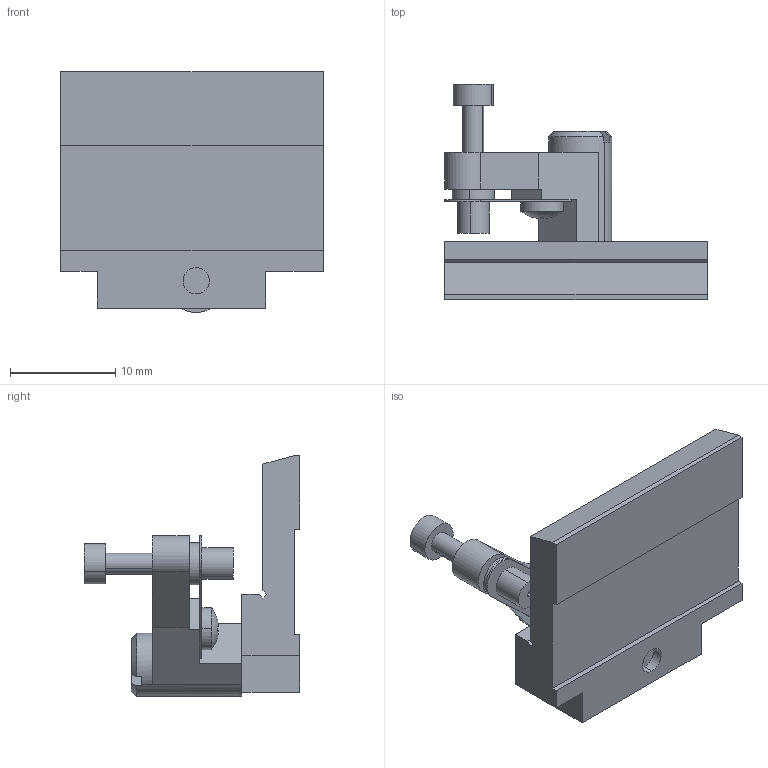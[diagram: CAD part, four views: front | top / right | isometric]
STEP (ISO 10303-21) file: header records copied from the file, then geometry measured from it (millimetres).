
FILE_DESCRIPTION (( 'STEP AP203' ), '1' );
FILE_NAME ('E340R-2-B.STEP', '2023-01-10T10:21:57', ( '' ), ( '' ), 'SwSTEP 2.0', 'SolidWorks 2017', '' );
FILE_SCHEMA (( 'CONFIG_CONTROL_DESIGN' ));
Length unit declared in the file: millimetre
Products named in the file (4): E340R-2-B-prt2; E340R-2-B-prt0; E340R-2-B; E340R-2-B-prt1
Assembly tree (3 placements, depth 2):
  E340R-2-B
    E340R-2-B-prt0
    E340R-2-B-prt1
    E340R-2-B-prt2
Bounding box: 25 x 20.48 x 22.9 mm (x, y, z)
Volume: 2725 mm3; surface area: 2290.8 mm2
Topology: 3 solids, 3 shells, 104 faces, 263 edges, 171 vertices
Faces by surface type: plane 70, cylinder 26, bspline 4, torus 2, sphere 2
Entity records: 3585 total; most frequent: CARTESIAN_POINT 602, DIRECTION 556, ORIENTED_EDGE 526, EDGE_CURVE 263, AXIS2_PLACEMENT_3D 193, VERTEX_POINT 171, LINE 170, VECTOR 170
